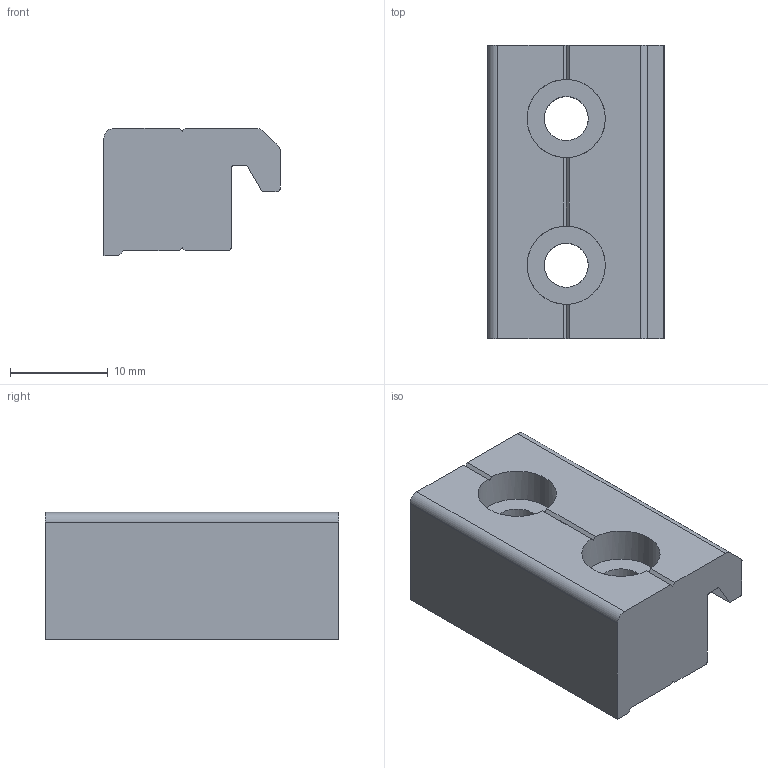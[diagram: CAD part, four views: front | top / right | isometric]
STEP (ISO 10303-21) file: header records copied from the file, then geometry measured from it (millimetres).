
FILE_DESCRIPTION(('STEP AP214'),'1');
FILE_NAME('SL2H-L30.stp','2016-10-19T08:35:59',(' '),(' '),'Spatial InterOp 3D',' ',' ');
FILE_SCHEMA(('automotive_design'));
Length unit declared in the file: millimetre
Products named in the file (1): SL2H-L30
Bounding box: 18 x 30 x 13 mm (x, y, z)
Volume: 4971.2 mm3; surface area: 2664.3 mm2
Topology: 1 solids, 1 shells, 42 faces, 122 edges, 80 vertices
Faces by surface type: plane 30, cylinder 12
Full cylindrical faces by diameter (mm): 4.5 x2, 8 x2
Entity records: 1738 total; most frequent: DIRECTION 248, CARTESIAN_POINT 241, ORIENTED_EDGE 236, EDGE_CURVE 118, AXIS2_PLACEMENT_3D 87, VERTEX_POINT 80, LINE 74, VECTOR 74
